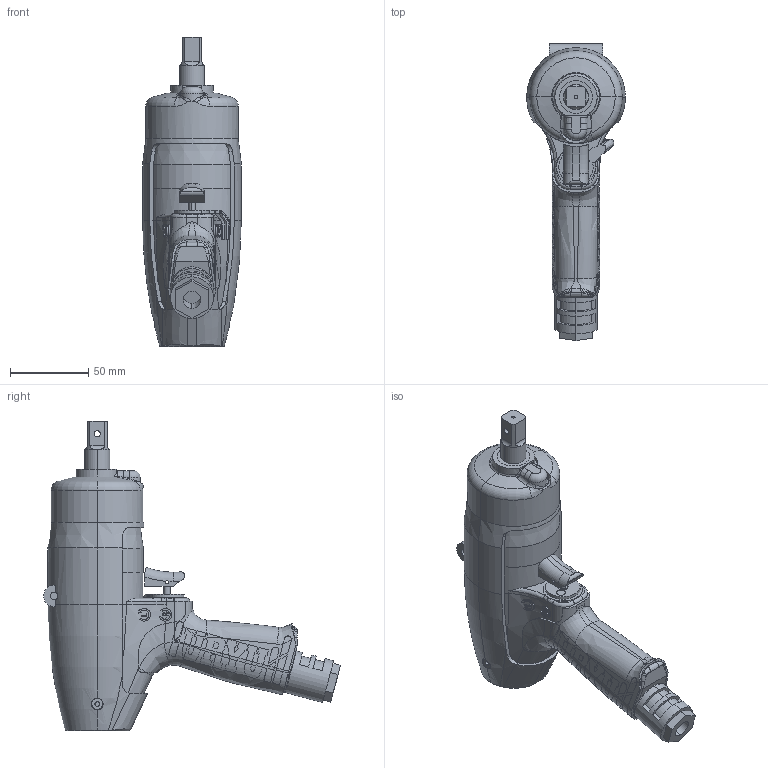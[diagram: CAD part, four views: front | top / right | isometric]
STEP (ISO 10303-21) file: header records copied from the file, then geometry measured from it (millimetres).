
FILE_DESCRIPTION (( 'STEP AP203' ), '1' );
FILE_NAME ('UAT100.STEP', '2015-07-23T02:02:27', ( '' ), ( '' ), 'SwSTEP 2.0', 'SolidWorks 2014', '' );
FILE_SCHEMA (( 'CONFIG_CONTROL_DESIGN' ));
Length unit declared in the file: millimetre
Products named in the file (8): 1480252_UAT100; 1472128_ULT100; 1471072_ULT100; 1478422_UAT100; 1488402_ULT100; UAT100; 1483192_ULT100; 1484392_ULT100
Assembly tree (7 placements, depth 2):
  UAT100
    1483192_ULT100
    1484392_ULT100
    1480252_UAT100
    1472128_ULT100
    1471072_ULT100
    1478422_UAT100
    1488402_ULT100
Bounding box: 63 x 189.51 x 197.5 mm (x, y, z)
Volume: 561636.6 mm3; surface area: 127107.2 mm2
Topology: 7 solids, 7 shells, 1260 faces, 3502 edges, 2282 vertices
Faces by surface type: plane 722, bspline 243, cylinder 226, torus 46, cone 23
Entity records: 60012 total; most frequent: CARTESIAN_POINT 30448, ORIENTED_EDGE 7000, DIRECTION 4472, EDGE_CURVE 3500, VERTEX_POINT 2282, LINE 1500, VECTOR 1500, B_SPLINE_CURVE_WITH_KNOTS 1490
